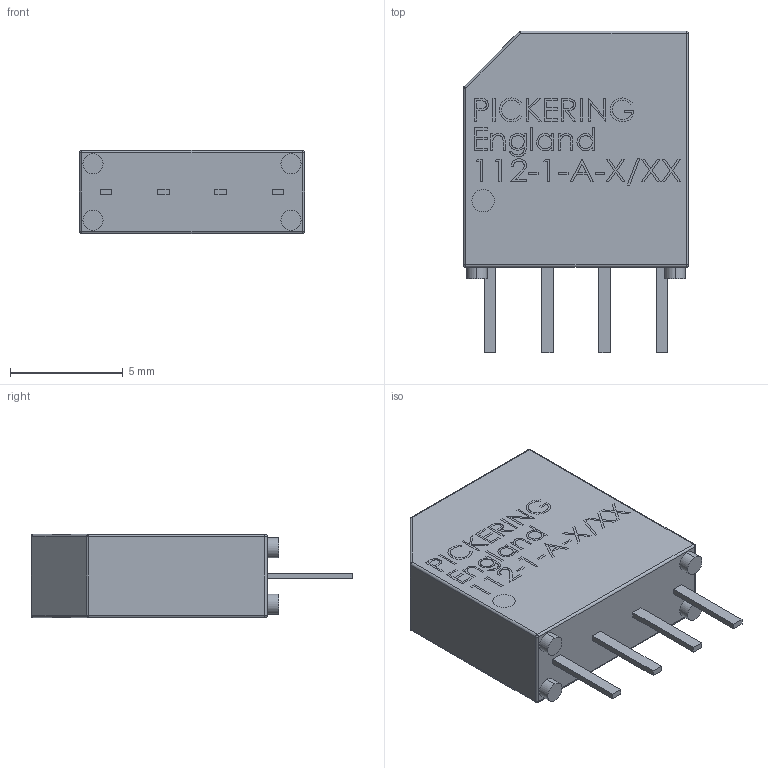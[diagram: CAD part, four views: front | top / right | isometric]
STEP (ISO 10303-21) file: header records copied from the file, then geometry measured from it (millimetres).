
FILE_DESCRIPTION (( 'STEP AP203' ), '1' );
FILE_NAME ('112-1-A.STEP', '2010-06-29T11:01:40', ( ' ' ), ( '' ), 'SwSTEP 2.0', 'SolidWorks 2009', '' );
FILE_SCHEMA (( 'CONFIG_CONTROL_DESIGN' ));
Length unit declared in the file: millimetre
Products named in the file (1): 112-1-A
Bounding box: 10 x 14.3 x 3.7 mm (x, y, z)
Volume: 379.4 mm3; surface area: 382.2 mm2
Topology: 1 solids, 1 shells, 581 faces, 1523 edges, 1000 vertices
Faces by surface type: plane 400, bspline 146, cylinder 25, sphere 10
Entity records: 25712 total; most frequent: CARTESIAN_POINT 12315, ORIENTED_EDGE 3030, DIRECTION 2145, EDGE_CURVE 1515, VECTOR 1173, LINE 1173, VERTEX_POINT 1000, EDGE_LOOP 645
